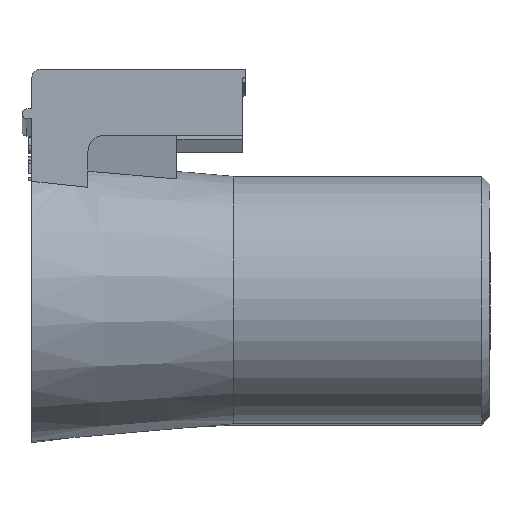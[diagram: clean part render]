
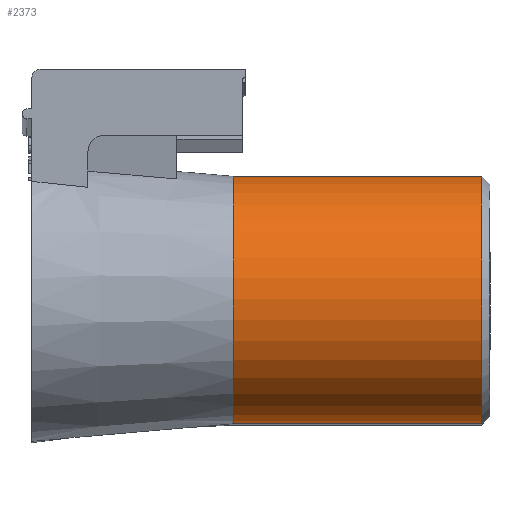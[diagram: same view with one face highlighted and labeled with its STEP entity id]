
A CAD part, front view. The second image highlights one B-rep face of the part: STEP entity #2373.
In plain terms, the highlighted cylindrical face has radius 7.5 mm (diameter 15 mm), a partial arc.
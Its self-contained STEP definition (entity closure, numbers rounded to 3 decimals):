
#51=CYLINDRICAL_SURFACE('',#2550,7.5);
#93=CIRCLE('',#2529,7.5);
#101=CIRCLE('',#2549,7.5);
#337=FACE_OUTER_BOUND('',#467,.T.);
#467=EDGE_LOOP('',(#2152,#2153,#2154,#2155));
#642=LINE('',#3821,#880);
#670=LINE('',#3891,#908);
#880=VECTOR('',#2887,10.);
#908=VECTOR('',#2937,10.);
#1109=VERTEX_POINT('',#3818);
#1110=VERTEX_POINT('',#3820);
#1135=VERTEX_POINT('',#3881);
#1137=VERTEX_POINT('',#3890);
#1401=EDGE_CURVE('',#1110,#1109,#642,.T.);
#1434=EDGE_CURVE('',#1137,#1135,#670,.T.);
#1477=EDGE_CURVE('',#1137,#1109,#93,.T.);
#1503=EDGE_CURVE('',#1110,#1135,#101,.T.);
#2152=ORIENTED_EDGE('',*,*,#1434,.T.);
#2153=ORIENTED_EDGE('',*,*,#1503,.F.);
#2154=ORIENTED_EDGE('',*,*,#1401,.T.);
#2155=ORIENTED_EDGE('',*,*,#1477,.F.);
#2373=ADVANCED_FACE('',(#337),#51,.T.);
#2529=AXIS2_PLACEMENT_3D('',#3983,#3044,#3045);
#2549=AXIS2_PLACEMENT_3D('',#4037,#3099,#3100);
#2550=AXIS2_PLACEMENT_3D('',#4038,#3101,#3102);
#2887=DIRECTION('',(-1.,0.,0.));
#2937=DIRECTION('',(1.,0.,0.));
#3044=DIRECTION('center_axis',(-1.,0.,0.));
#3045=DIRECTION('ref_axis',(0.,-1.,0.));
#3099=DIRECTION('center_axis',(1.,0.,0.));
#3100=DIRECTION('ref_axis',(0.,1.,0.));
#3101=DIRECTION('center_axis',(-1.,0.,0.));
#3102=DIRECTION('ref_axis',(0.,-1.,0.));
#3818=CARTESIAN_POINT('',(11.43,0.,7.5));
#3820=CARTESIAN_POINT('',(26.5,0.,7.5));
#3821=CARTESIAN_POINT('',(19.215,0.,7.5));
#3881=CARTESIAN_POINT('',(26.5,-0.14,-7.499));
#3890=CARTESIAN_POINT('',(11.43,-0.14,-7.499));
#3891=CARTESIAN_POINT('',(19.215,-0.14,-7.499));
#3983=CARTESIAN_POINT('Origin',(11.43,0.,
0.));
#4037=CARTESIAN_POINT('Origin',(26.5,0.,
0.));
#4038=CARTESIAN_POINT('Origin',(19.215,0.,
0.));
